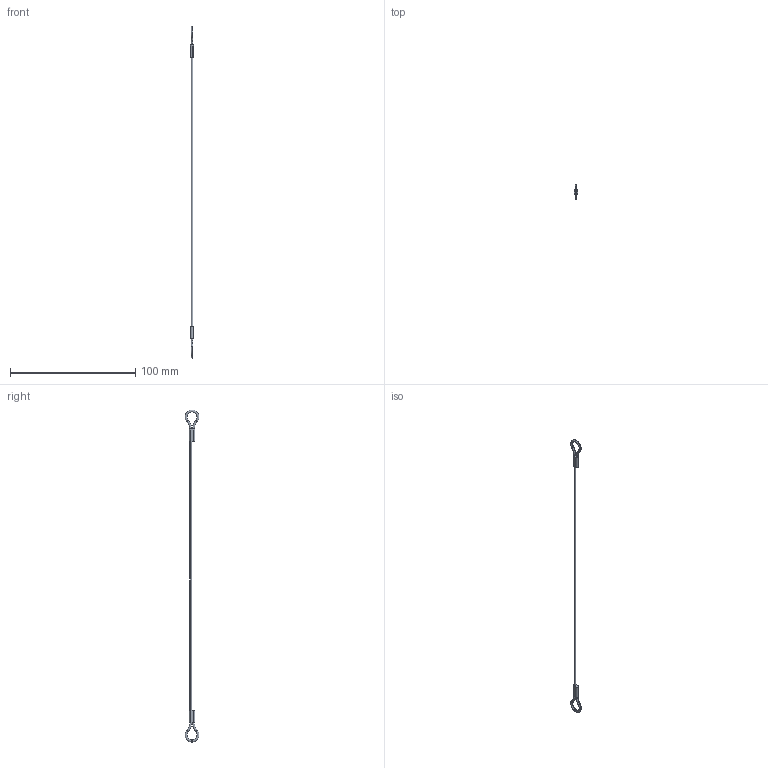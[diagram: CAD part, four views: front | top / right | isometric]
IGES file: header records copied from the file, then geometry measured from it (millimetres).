
Start section: SolidWorks IGES file using analytic representation for surfaces
Global section: file name: C:\Users\ianosborn\Desktop\LA1065_v2\LA1065_v2_20260320_IGES\LA1065.I06-254N1.igs; native system: SolidWorks 2019; preprocessor: SolidWorks 2019; author: IanOsborn; date: 260323.154527; units: millimetre
Bounding box: 2.4 x 11.18 x 265.17 mm (x, y, z)
Surface area: 1703.4 mm2 (no closed solid volume)
Topology: 0 solids, 0 shells, 30 faces, 336 edges, 336 vertices
Faces by surface type: bspline 22, revolution 8
